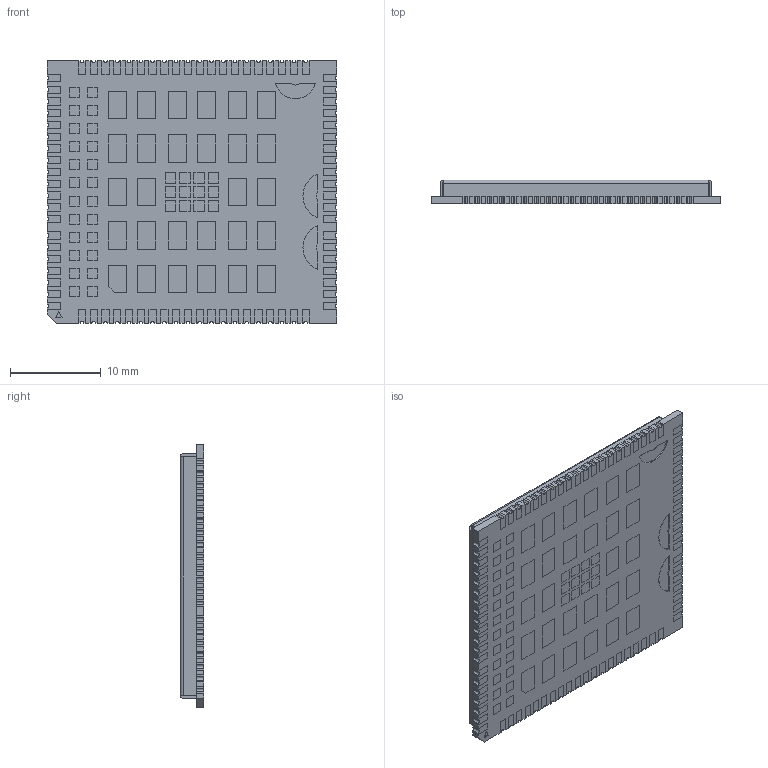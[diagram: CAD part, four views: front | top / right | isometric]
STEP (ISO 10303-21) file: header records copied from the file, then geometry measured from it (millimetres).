
FILE_DESCRIPTION (( 'STEP AP214' ), '1' );
FILE_NAME ('EC21.STEP', '2021-11-16T00:28:53', ( '' ), ( '' ), 'SwSTEP 2.0', 'SolidWorks 2017', '' );
FILE_SCHEMA (( 'AUTOMOTIVE_DESIGN' ));
Length unit declared in the file: millimetre
Products named in the file (1): EC21
Bounding box: 32 x 2.6 x 29 mm (x, y, z)
Volume: 1026.3 mm3; surface area: 5063.2 mm2
Topology: 151 solids, 151 shells, 2096 faces, 5159 edges, 3434 vertices
Faces by surface type: plane 1968, cylinder 128
Entity records: 62135 total; most frequent: CARTESIAN_POINT 10690, ORIENTED_EDGE 10318, DIRECTION 9609, EDGE_CURVE 5159, LINE 4903, VECTOR 4903, VERTEX_POINT 3434, AXIS2_PLACEMENT_3D 2353
